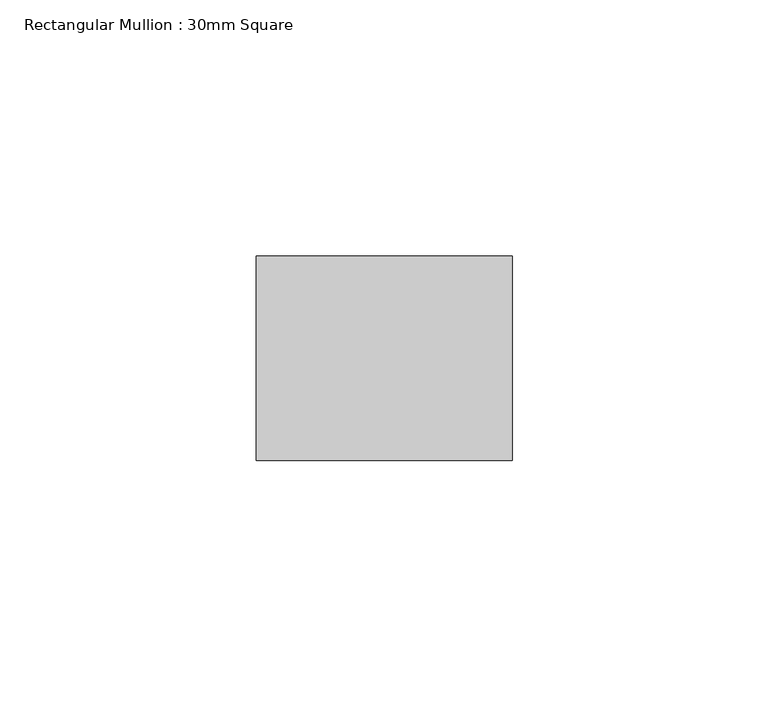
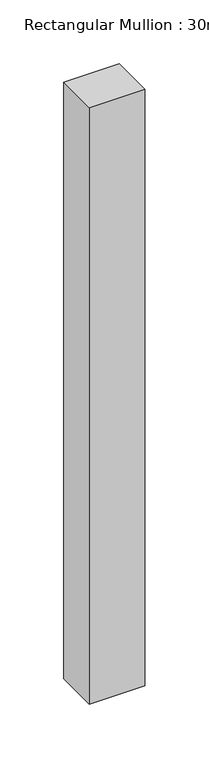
"""IFC4 building model written with IfcOpenShell, lengths in millimetres: member geometry, Rectangular Mullion : 30mm Square."""

from ifc_helpers import new_model, si_unit, frame, origin, place, context, project, spatial, polyline, outline, extrude, source, transform, mapped, element, save


def rectangular_mullion_30mm_square_433c3593(model_context):
    return source(origin(), model_context, "Body", "SweptSolid", [
        extrude(outline(polyline([(0.0, 20.0), (0.0, -20.0), (-50.0, -20.0), (-50.0, 20.0), (0.0, 20.0)])), frame((0.0, 0.0, -569.6621432), z_axis=(0.0, 0.0, 1.0), x_axis=(1.0, 0.0, 0.0)), (0.0, 0.0, 1.0), 569.6621432),
    ])


if __name__ == "__main__":
    model = new_model("IFC4")
    model_context = context("Model", 3, world=origin())
    ifc_project = project(units=[si_unit("LENGTHUNIT", "METRE", prefix="MILLI")], contexts=[model_context])
    site = spatial("IfcSite", under=ifc_project)
    building = spatial("IfcBuilding", under=site)
    placement = place(None, origin())
    rectangular_mullion_30mm_square_shape = rectangular_mullion_30mm_square_433c3593(model_context)
    element("IfcMember", 1, ObjectType="Rectangular Mullion : 30mm Square", at=placement, inside=building, context=model_context, shape_type="MappedRepresentation", body=[
        mapped(rectangular_mullion_30mm_square_shape, transform((0.0, 0.0, 0.0), x_axis=(1.0, 0.0, 0.0), y_axis=(0.0, 1.0, 0.0), z_axis=(0.0, 0.0, 1.0))),
    ])
    save(model, "model.ifc")
